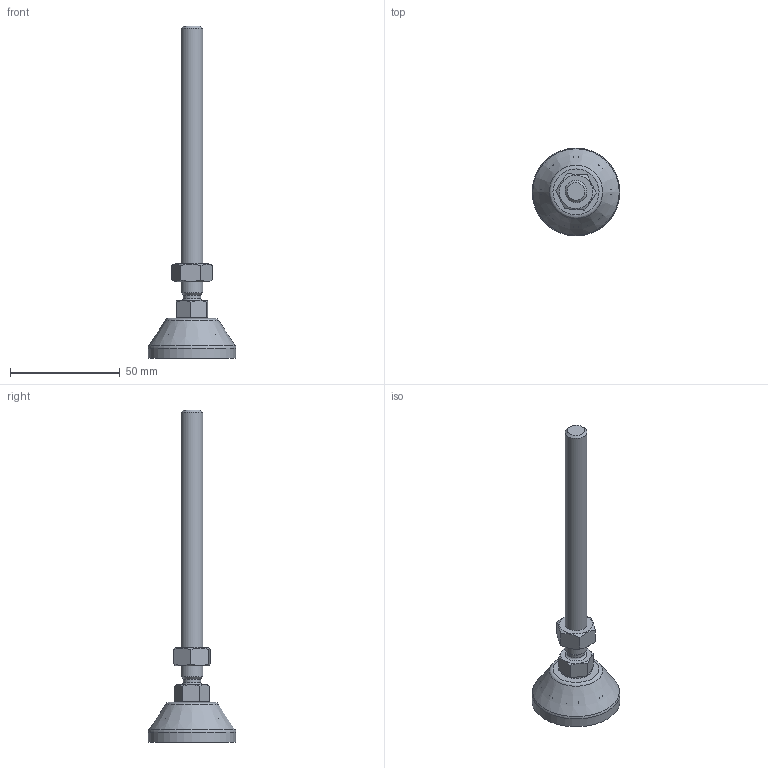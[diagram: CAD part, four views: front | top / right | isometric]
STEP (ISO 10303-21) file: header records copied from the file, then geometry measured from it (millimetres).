
FILE_DESCRIPTION(('STEP AP203'), '1');
FILE_NAME('栖闉罻', '', ('UNSPECIFIED'), ('UNSPECIFIED'), 'C3D Converter', 'C3D Toolkit', '');
FILE_SCHEMA(('CONFIG_CONTROL_DESIGN'));
Length unit declared in the file: millimetre
Products named in the file (4): A00015.1040; A00020.110125
Assembly tree (3 placements, depth 3):
  (unnamed)
    A00015.1040
    A00020.110125
      (unnamed)
Bounding box: 40 x 40 x 151.1 mm (x, y, z)
Volume: 23823.9 mm3; surface area: 12229.3 mm2
Topology: 3 solids, 3 shells, 142 faces, 392 edges, 260 vertices
Faces by surface type: plane 78, cylinder 26, torus 21, cone 15, sphere 2
Full cylindrical faces by diameter (mm): 8 x1, 8.376 x1, 10 x1, 12 x1, 14.3 x1, 15 x2, 15.5 x1, 32 x1, 40 x1
Entity records: 8123 total; most frequent: CARTESIAN_POINT 3270, ORIENTED_EDGE 730, DIRECTION 728, EDGE_CURVE 365, AXIS2_PLACEMENT_3D 291, VERTEX_POINT 259, EDGE_LOOP 174, FACE_BOUND 151
